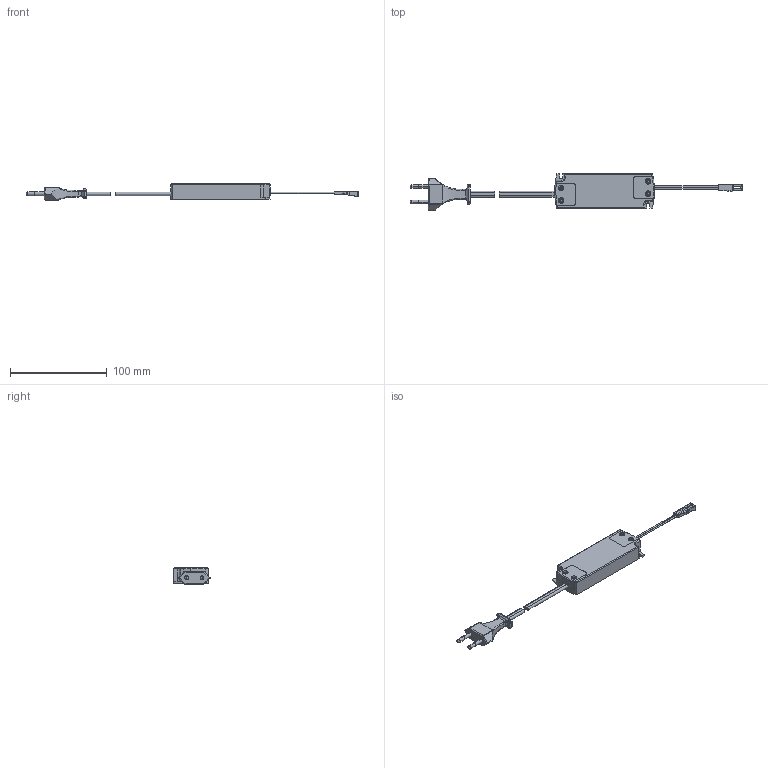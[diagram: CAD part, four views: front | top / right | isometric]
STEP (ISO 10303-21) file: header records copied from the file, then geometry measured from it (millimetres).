
FILE_DESCRIPTION (( 'STEP AP203' ), '1' );
FILE_NAME ('LED_EVG_12VDC_20W_24.STEP', '2024-12-03T10:55:48', ( '' ), ( '' ), 'SwSTEP 2.0', 'SolidWorks 2023', '' );
FILE_SCHEMA (( 'CONFIG_CONTROL_DESIGN' ));
Length unit declared in the file: millimetre
Products named in the file (4): Euroflachstecker_DAM_weiss; LED_EVG_12VDC_20W_24; 1916504_Pr1251_Mini_Buchse_LED_sw__L=100 mm; 3101601_Version_ab_2022
Assembly tree (3 placements, depth 2):
  LED_EVG_12VDC_20W_24
    3101601_Version_ab_2022
    Euroflachstecker_DAM_weiss
    1916504_Pr1251_Mini_Buchse_LED_sw__L=100 mm
Bounding box: 343.29 x 37.78 x 16.75 mm (x, y, z)
Volume: 66735.2 mm3; surface area: 23842 mm2
Topology: 8 solids, 8 shells, 524 faces, 1337 edges, 800 vertices
Faces by surface type: plane 224, cylinder 190, sphere 45, torus 39, bspline 26
Entity records: 16890 total; most frequent: CARTESIAN_POINT 4180, DIRECTION 2591, ORIENTED_EDGE 2582, EDGE_CURVE 1291, AXIS2_PLACEMENT_3D 946, VERTEX_POINT 791, LINE 699, VECTOR 699
